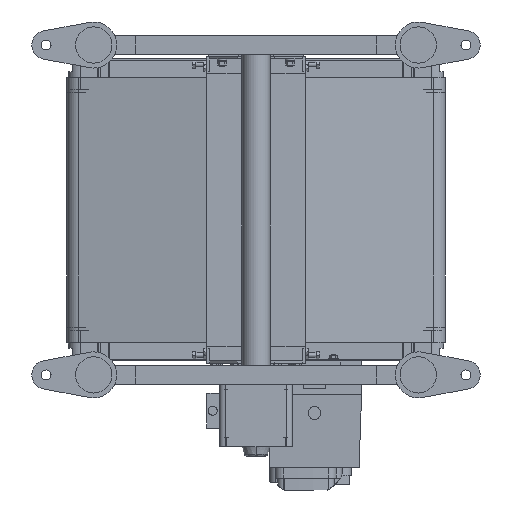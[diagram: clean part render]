
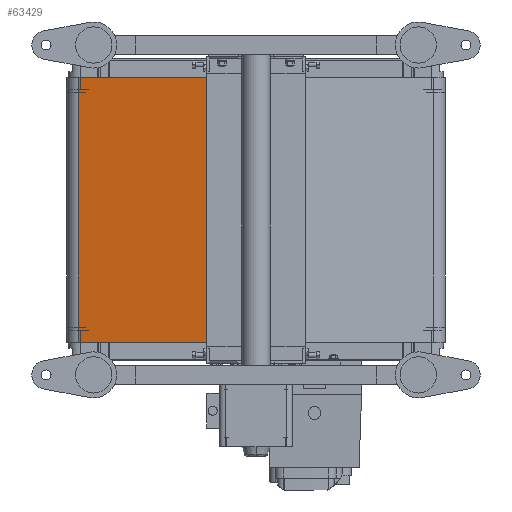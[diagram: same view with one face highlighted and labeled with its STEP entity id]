
A CAD part, front view. The second image highlights one B-rep face of the part: STEP entity #63429.
In plain terms, the highlighted planar face has unit normal (-0.176, -0.984, 0).
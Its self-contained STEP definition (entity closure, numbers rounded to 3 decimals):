
#2477 = VECTOR ( 'NONE', #14289, 1000. ) ;
#5882 = EDGE_CURVE ( 'NONE', #66009, #70261, #6938, .T. ) ;
#6711 = CARTESIAN_POINT ( 'NONE',  ( 217.987, -70.264, 175. ) ) ;
#6938 = LINE ( 'NONE', #42055, #71476 ) ;
#7696 = PLANE ( 'NONE',  #54822 ) ;
#10301 = LINE ( 'NONE', #51178, #2477 ) ;
#10429 = DIRECTION ( 'NONE',  ( 0.176, 0.984, 0. ) ) ;
#12349 = VERTEX_POINT ( 'NONE', #65242 ) ;
#12469 = LINE ( 'NONE', #63821, #16376 ) ;
#14289 = DIRECTION ( 'NONE',  ( 0.984, -0.176, 0. ) ) ;
#16376 = VECTOR ( 'NONE', #44964, 1000. ) ;
#16682 = DIRECTION ( 'NONE',  ( -0.984, 0.176, 0. ) ) ;
#18940 = ORIENTED_EDGE ( 'NONE', *, *, #5882, .F. ) ;
#30014 = FACE_OUTER_BOUND ( 'NONE', #50480, .T. ) ;
#32882 = CARTESIAN_POINT ( 'NONE',  ( 14.409, -33.936, 175. ) ) ;
#33251 = CARTESIAN_POINT ( 'NONE',  ( 14.409, -33.936, -175. ) ) ;
#39001 = EDGE_CURVE ( 'NONE', #12349, #42947, #12469, .T. ) ;
#39491 = ORIENTED_EDGE ( 'NONE', *, *, #39001, .T. ) ;
#39740 = ORIENTED_EDGE ( 'NONE', *, *, #45728, .F. ) ;
#41556 = CARTESIAN_POINT ( 'NONE',  ( 14.409, -33.936, 175. ) ) ;
#42055 = CARTESIAN_POINT ( 'NONE',  ( 217.987, -70.264, 175. ) ) ;
#42947 = VERTEX_POINT ( 'NONE', #33251 ) ;
#43502 = EDGE_CURVE ( 'NONE', #42947, #70261, #10301, .T. ) ;
#44334 = LINE ( 'NONE', #32882, #55073 ) ;
#44964 = DIRECTION ( 'NONE',  ( 0., 0., -1. ) ) ;
#45510 = CARTESIAN_POINT ( 'NONE',  ( 217.987, -70.264, -175. ) ) ;
#45728 = EDGE_CURVE ( 'NONE', #12349, #66009, #44334, .T. ) ;
#50480 = EDGE_LOOP ( 'NONE', ( #51144, #18940, #39740, #39491 ) ) ;
#51144 = ORIENTED_EDGE ( 'NONE', *, *, #43502, .T. ) ;
#51178 = CARTESIAN_POINT ( 'NONE',  ( 14.409, -33.936, -175. ) ) ;
#54634 = DIRECTION ( 'NONE',  ( 0., 0., -1. ) ) ;
#54822 = AXIS2_PLACEMENT_3D ( 'NONE', #41556, #10429, #16682 ) ;
#55073 = VECTOR ( 'NONE', #70605, 1000. ) ;
#63429 = ADVANCED_FACE ( 'NONE', ( #30014 ), #7696, .F. ) ;
#63821 = CARTESIAN_POINT ( 'NONE',  ( 14.409, -33.936, 175. ) ) ;
#65242 = CARTESIAN_POINT ( 'NONE',  ( 14.409, -33.936, 175. ) ) ;
#66009 = VERTEX_POINT ( 'NONE', #6711 ) ;
#70261 = VERTEX_POINT ( 'NONE', #45510 ) ;
#70605 = DIRECTION ( 'NONE',  ( 0.984, -0.176, 0. ) ) ;
#71476 = VECTOR ( 'NONE', #54634, 1000. ) ;
